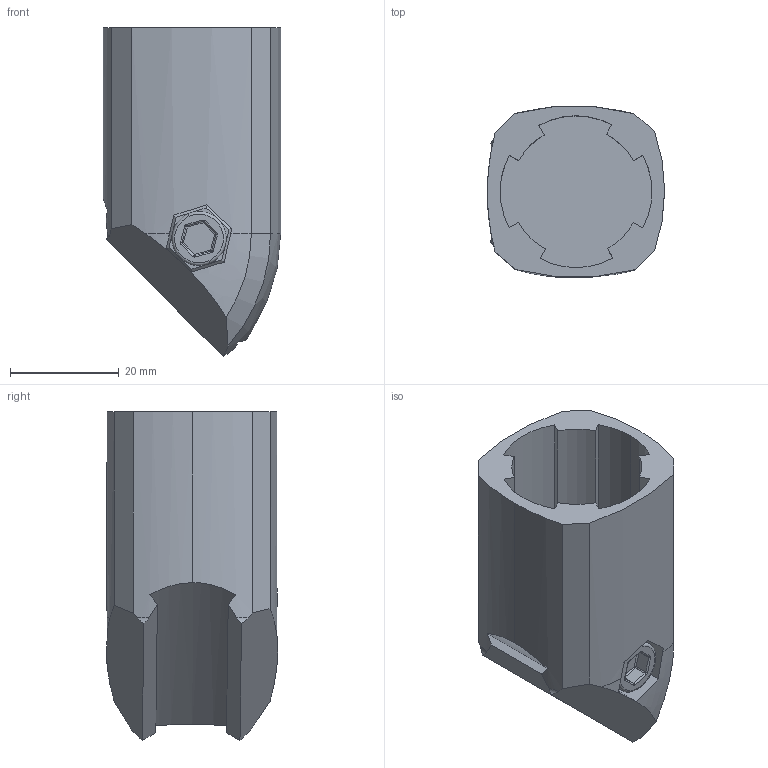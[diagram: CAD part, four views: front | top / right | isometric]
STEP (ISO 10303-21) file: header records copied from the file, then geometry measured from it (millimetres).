
FILE_DESCRIPTION (( 'STEP AP203' ), '1' );
FILE_NAME ('1102.STEP', '2016-05-29T11:34:54', ( 'RosInstal-MKM' ), ( '' ), 'SwSTEP 2.0', 'SolidWorks 2014', '' );
FILE_SCHEMA (( 'CONFIG_CONTROL_DESIGN' ));
Length unit declared in the file: millimetre
Products named in the file (4): 1102; 櫻蠉錪6; ãàéêà02; 鎔艜02
Assembly tree (3 placements, depth 2):
  1102
    櫻蠉錪6
    ãàéêà02
    鎔艜02
Bounding box: 32.69 x 31.61 x 60.6 mm (x, y, z)
Volume: 28517.9 mm3; surface area: 11872.6 mm2
Topology: 3 solids, 3 shells, 124 faces, 305 edges, 182 vertices
Faces by surface type: plane 56, cylinder 40, torus 17, sphere 7, cone 4
Entity records: 4051 total; most frequent: CARTESIAN_POINT 754, DIRECTION 631, ORIENTED_EDGE 598, EDGE_CURVE 299, AXIS2_PLACEMENT_3D 239, VERTEX_POINT 182, LINE 153, VECTOR 153
